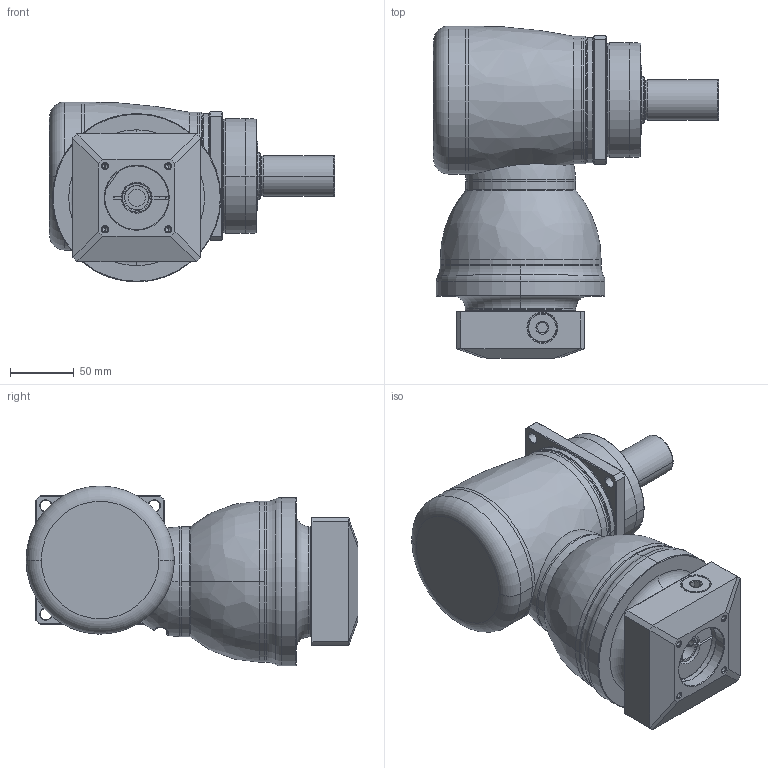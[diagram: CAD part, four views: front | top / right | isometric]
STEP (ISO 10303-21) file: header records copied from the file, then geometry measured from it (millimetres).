
FILE_DESCRIPTION((''),'2;1');
FILE_NAME('KF100_1ST_19-P0409410101_ASM','2016-06-22T',('d01943'),(''),'PRO/ENGINEER BY PARAMETRIC TECHNOLOGY CORPORATION, 2008410','PRO/ENGINEER BY PARAMETRIC TECHNOLOGY CORPORATION, 2008410','');
FILE_SCHEMA(('CONFIG_CONTROL_DESIGN'));
Length unit declared in the file: millimetre
Products named in the file (11): P1008400002; P1804400001; P0915400001; P1315400001; P1007400001; P1318400001; P0409410101; P0503400008; P0912400001; 21711416017; KF100_1ST_19-P0409410101_ASM
Assembly tree (10 placements, depth 2):
  KF100_1ST_19-P0409410101_ASM
    P1008400002
    P1804400001
    P0915400001
    P1315400001
    P1007400001
    P1318400001
    P0409410101
    P0503400008
    P0912400001
    21711416017
Bounding box: 223.3 x 260 x 141 mm (x, y, z)
Volume: 2244170.7 mm3; surface area: 317343.2 mm2
Topology: 11 solids, 11 shells, 463 faces, 1026 edges, 605 vertices
Faces by surface type: cylinder 148, cone 116, plane 97, torus 64, bspline 36, sphere 2
Entity records: 18579 total; most frequent: CARTESIAN_POINT 8186, DIRECTION 2276, ORIENTED_EDGE 2016, EDGE_CURVE 1008, AXIS2_PLACEMENT_3D 968, VERTEX_POINT 605, EDGE_LOOP 527, CIRCLE 520
